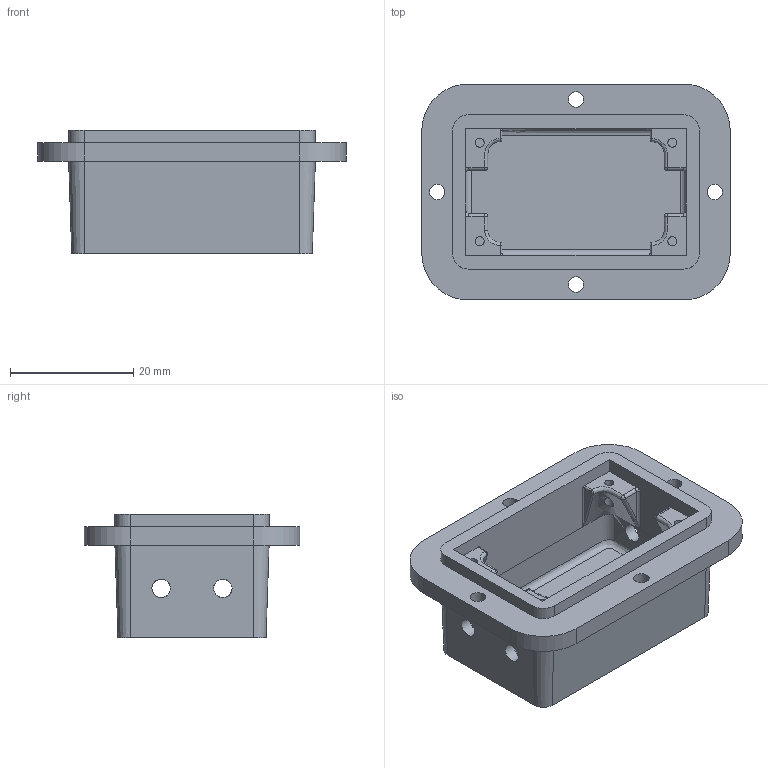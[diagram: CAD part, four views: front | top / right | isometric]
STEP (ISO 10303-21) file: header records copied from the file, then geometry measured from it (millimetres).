
FILE_DESCRIPTION(/* description */ ('Alibre Inc.'),/* implementation_level */ '2;1');
FILE_NAME(/* name */ 'export-D9B856DF-A15A-4F1E-8915-879114B4729F',/* time_stamp */ '2020-10-17T10:19:37-05:00',/* author */ (''),/* organization */ (''),/* preprocessor_version */ 'ST-DEVELOPER v17',/* originating_system */ 'Alibre',/* authorisation */ '');
FILE_SCHEMA (('AUTOMOTIVE_DESIGN'));
Length unit declared in the file: millimetre
Bounding box: 50 x 35 x 20 mm (x, y, z)
Volume: 10085.1 mm3; surface area: 7899.4 mm2
Topology: 1 solids, 1 shells, 117 faces, 319 edges, 195 vertices
Faces by surface type: cylinder 36, plane 33, bspline 32, torus 8, sphere 4, cone 4
Full cylindrical faces by diameter (mm): 1.5 x4, 2.5 x4, 3 x4
Entity records: 11992 total; most frequent: CARTESIAN_POINT 9426, ORIENTED_EDGE 582, DIRECTION 408, EDGE_CURVE 291, VERTEX_POINT 191, AXIS2_PLACEMENT_3D 174, EDGE_LOOP 156, FACE_BOUND 156
